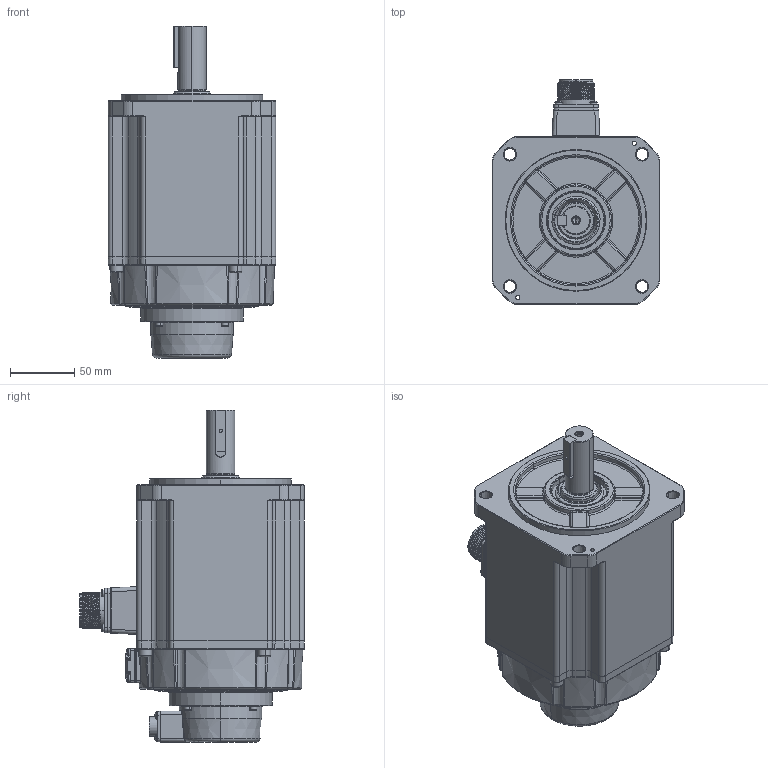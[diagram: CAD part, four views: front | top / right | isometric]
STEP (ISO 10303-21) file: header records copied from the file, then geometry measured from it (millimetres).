
FILE_DESCRIPTION (( 'STEP AP214' ), '1' );
FILE_NAME ('RSA1-M-130-1.8kw-B.STEP', '2024-08-12T02:13:10', ( '' ), ( '' ), 'SwSTEP 2.0', 'SolidWorks 2020', '' );
FILE_SCHEMA (( 'AUTOMOTIVE_DESIGN' ));
Length unit declared in the file: millimetre
Products named in the file (15): 130秶雄ん盄揤裔; 130-笢嫦講-粣噤22; 130梓袧綴裔; 130-惕掅綴傷裔; 内六角圆柱头和平垫圈组合螺钉_M3x16; 坋趼羞攫芛蹟隊_M3x30; 130-蚐猾_TC30x45x8(NBR); RSA1-M-130-1.8kw-B; 4140000005_电机内部编码器线_7x26AWG(0.1m-CMV1-10芯螺纹插座_GACJ3045); 130雄薯瑤脣價釱; 惕掅雄薯瑤脣; ﾊｮﾗﾖｲﾛﾅﾌﾍｷﾗﾔｼｷﾂﾝｶ､_M3x8; 130-M-1.8kw儂褲; す瑩_B8x7x32; 内六角圆柱头螺钉_M6x20
Assembly tree (30 placements, depth 2):
  RSA1-M-130-1.8kw-B
    130-M-1.8kw儂褲
    130雄薯瑤脣價釱
    130-笢嫦講-粣噤22
    惕掅雄薯瑤脣
    130-蚐猾_TC30x45x8(NBR)
    130-惕掅綴傷裔
    130梓袧綴裔
    4140000005_电机内部编码器线_7x26AWG(0.1m-CMV1-10芯螺纹插座_GACJ3045)
    内六角圆柱头螺钉_M6x20  x4
    内六角圆柱头和平垫圈组合螺钉_M3x16  x4
    坋趼羞攫芛蹟隊_M3x30  x8
    ﾊｮﾗﾖｲﾛﾅﾌﾍｷﾗﾔｼｷﾂﾝｶ､_M3x8  x4
    す瑩_B8x7x32
    130秶雄ん盄揤裔
Bounding box: 130 x 174.4 x 257.6 mm (x, y, z)
Volume: 2189845.9 mm3; surface area: 222092.6 mm2
Topology: 34 solids, 36 shells, 3151 faces, 7787 edges, 4862 vertices
Faces by surface type: plane 1462, cylinder 754, cone 320, torus 299, bspline 240, sphere 76
Entity records: 109009 total; most frequent: CARTESIAN_POINT 28597, ORIENTED_EDGE 13370, DIRECTION 13341, EDGE_CURVE 6685, AXIS2_PLACEMENT_3D 4801, VERTEX_POINT 4188, VECTOR 3739, LINE 3739
